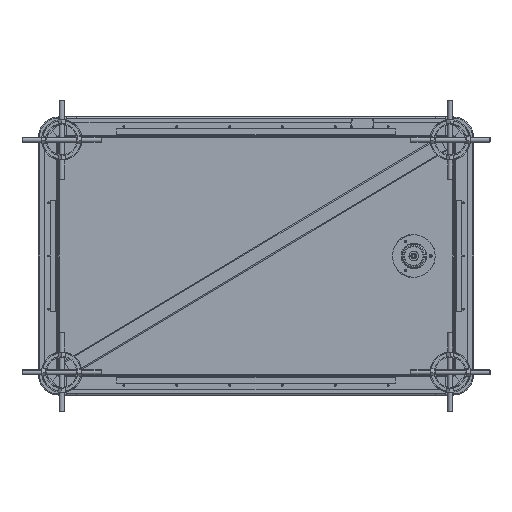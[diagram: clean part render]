
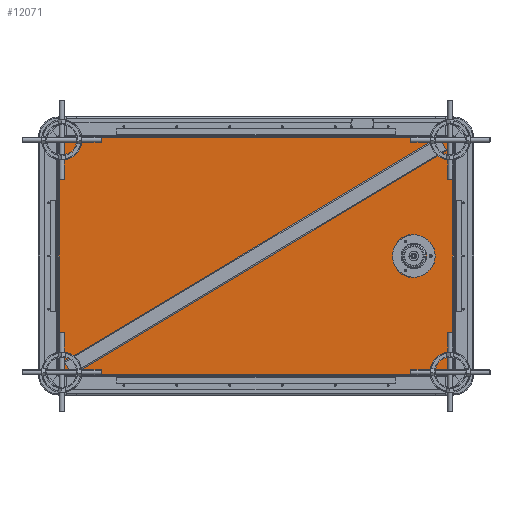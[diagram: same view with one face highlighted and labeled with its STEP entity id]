
A CAD part, front view. The second image highlights one B-rep face of the part: STEP entity #12071.
In plain terms, the highlighted planar face has unit normal (-0.018, -1, 0).
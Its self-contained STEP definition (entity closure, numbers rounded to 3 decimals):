
#70 = CARTESIAN_POINT ( 'NONE',  ( 373.748, -70.243, 36.806 ) ) ;
#441 = VERTEX_POINT ( 'NONE', #44670 ) ;
#771 = AXIS2_PLACEMENT_3D ( 'NONE', #16223, #36047, #27571 ) ;
#1063 = CARTESIAN_POINT ( 'NONE',  ( 373.748, -70.243, -36.806 ) ) ;
#2255 = CIRCLE ( 'NONE', #23294, 2.45 ) ;
#2343 = CARTESIAN_POINT ( 'NONE',  ( 376.198, -70.285, -36.806 ) ) ;
#2465 = AXIS2_PLACEMENT_3D ( 'NONE', #28470, #47895, #36260 ) ;
#2573 = ORIENTED_EDGE ( 'NONE', *, *, #23126, .F. ) ;
#3183 = ORIENTED_EDGE ( 'NONE', *, *, #18973, .T. ) ;
#4253 = FACE_BOUND ( 'NONE', #49211, .T. ) ;
#4737 = ORIENTED_EDGE ( 'NONE', *, *, #31815, .T. ) ;
#5606 = EDGE_LOOP ( 'NONE', ( #24836, #29629, #2573, #3183 ) ) ;
#5864 = EDGE_LOOP ( 'NONE', ( #12829, #34138 ) ) ;
#5886 = VERTEX_POINT ( 'NONE', #13179 ) ;
#5948 = CIRCLE ( 'NONE', #2465, 2.45 ) ;
#7405 = EDGE_CURVE ( 'NONE', #48457, #5886, #10723, .T. ) ;
#7808 = EDGE_CURVE ( 'NONE', #42266, #441, #37735, .T. ) ;
#8124 = CARTESIAN_POINT ( 'NONE',  ( 437.489, -71.355, 0. ) ) ;
#8426 = EDGE_CURVE ( 'NONE', #441, #42266, #17916, .T. ) ;
#8612 = EDGE_CURVE ( 'NONE', #25677, #28077, #40652, .T. ) ;
#8764 = DIRECTION ( 'NONE',  ( -1., 0.017, 0. ) ) ;
#8974 = AXIS2_PLACEMENT_3D ( 'NONE', #13400, #40896, #17328 ) ;
#9092 = CARTESIAN_POINT ( 'NONE',  ( -495.57, -55.069, -298. ) ) ;
#9212 = DIRECTION ( 'NONE',  ( 1., -0.017, 0. ) ) ;
#9239 = ORIENTED_EDGE ( 'NONE', *, *, #25631, .T. ) ;
#10271 = EDGE_LOOP ( 'NONE', ( #43712, #50866 ) ) ;
#10602 = VERTEX_POINT ( 'NONE', #40821 ) ;
#10610 = CIRCLE ( 'NONE', #48371, 30.25 ) ;
#10723 = CIRCLE ( 'NONE', #771, 30.25 ) ;
#10847 = DIRECTION ( 'NONE',  ( 0.017, 1., 0. ) ) ;
#11446 = CARTESIAN_POINT ( 'NONE',  ( 495.43, -72.367, 298. ) ) ;
#12071 = ADVANCED_FACE ( 'NONE', ( #25098, #33709, #14614, #4253, #44809 ), #20926, .F. ) ;
#12448 = EDGE_CURVE ( 'NONE', #44411, #25864, #5948, .T. ) ;
#12703 = ORIENTED_EDGE ( 'NONE', *, *, #7405, .T. ) ;
#12829 = ORIENTED_EDGE ( 'NONE', *, *, #12448, .T. ) ;
#13179 = CARTESIAN_POINT ( 'NONE',  ( 367.199, -70.128, 0. ) ) ;
#13400 = CARTESIAN_POINT ( 'NONE',  ( 499.5, -72.438, 298. ) ) ;
#14411 = DIRECTION ( 'NONE',  ( 0.017, 1., 0. ) ) ;
#14479 = VERTEX_POINT ( 'NONE', #41893 ) ;
#14614 = FACE_BOUND ( 'NONE', #10271, .T. ) ;
#14797 = DIRECTION ( 'NONE',  ( -1., 0.017, 0. ) ) ;
#14866 = LINE ( 'NONE', #11446, #44469 ) ;
#15128 = DIRECTION ( 'NONE',  ( -1., 0.017, 0. ) ) ;
#15289 = EDGE_LOOP ( 'NONE', ( #46139, #9239 ) ) ;
#15644 = CARTESIAN_POINT ( 'NONE',  ( 439.938, -71.398, 0. ) ) ;
#15892 = DIRECTION ( 'NONE',  ( 0., 0., -1. ) ) ;
#16185 = CARTESIAN_POINT ( 'NONE',  ( 378.648, -70.328, -36.806 ) ) ;
#16223 = CARTESIAN_POINT ( 'NONE',  ( 397.445, -70.656, 0. ) ) ;
#16561 = CARTESIAN_POINT ( 'NONE',  ( 499.5, -72.438, -298. ) ) ;
#17328 = DIRECTION ( 'NONE',  ( -1., 0.017, 0. ) ) ;
#17916 = CIRCLE ( 'NONE', #40293, 2.45 ) ;
#18552 = LINE ( 'NONE', #46092, #42629 ) ;
#18973 = EDGE_CURVE ( 'NONE', #14479, #25677, #18552, .T. ) ;
#19603 = CIRCLE ( 'NONE', #39079, 2.45 ) ;
#20210 = CARTESIAN_POINT ( 'NONE',  ( 439.938, -71.398, 0. ) ) ;
#20926 = PLANE ( 'NONE',  #8974 ) ;
#20944 = EDGE_CURVE ( 'NONE', #28498, #29412, #31937, .T. ) ;
#22743 = CARTESIAN_POINT ( 'NONE',  ( 427.69, -71.184, 0. ) ) ;
#23126 = EDGE_CURVE ( 'NONE', #14479, #10602, #46343, .T. ) ;
#23272 = CARTESIAN_POINT ( 'NONE',  ( 378.648, -70.328, 36.806 ) ) ;
#23294 = AXIS2_PLACEMENT_3D ( 'NONE', #50411, #10847, #14797 ) ;
#24836 = ORIENTED_EDGE ( 'NONE', *, *, #8612, .T. ) ;
#25098 = FACE_BOUND ( 'NONE', #5864, .T. ) ;
#25631 = EDGE_CURVE ( 'NONE', #29412, #28498, #19603, .T. ) ;
#25677 = VERTEX_POINT ( 'NONE', #9092 ) ;
#25864 = VERTEX_POINT ( 'NONE', #23272 ) ;
#26732 = CARTESIAN_POINT ( 'NONE',  ( 397.445, -70.656, 0. ) ) ;
#27571 = DIRECTION ( 'NONE',  ( -1., 0.017, 0. ) ) ;
#28077 = VERTEX_POINT ( 'NONE', #45347 ) ;
#28470 = CARTESIAN_POINT ( 'NONE',  ( 376.198, -70.285, 36.806 ) ) ;
#28498 = VERTEX_POINT ( 'NONE', #1063 ) ;
#29412 = VERTEX_POINT ( 'NONE', #16185 ) ;
#29629 = ORIENTED_EDGE ( 'NONE', *, *, #46023, .F. ) ;
#29656 = CARTESIAN_POINT ( 'NONE',  ( 376.198, -70.285, -36.806 ) ) ;
#31815 = EDGE_CURVE ( 'NONE', #5886, #48457, #10610, .T. ) ;
#31937 = CIRCLE ( 'NONE', #38764, 2.45 ) ;
#32140 = DIRECTION ( 'NONE',  ( 0.017, 1., 0. ) ) ;
#33480 = DIRECTION ( 'NONE',  ( -1., 0.017, 0. ) ) ;
#33709 = FACE_BOUND ( 'NONE', #15289, .T. ) ;
#34138 = ORIENTED_EDGE ( 'NONE', *, *, #37178, .T. ) ;
#35006 = DIRECTION ( 'NONE',  ( -1., 0.017, 0. ) ) ;
#36047 = DIRECTION ( 'NONE',  ( 0.017, 1., 0. ) ) ;
#36260 = DIRECTION ( 'NONE',  ( -1., 0.017, 0. ) ) ;
#36926 = DIRECTION ( 'NONE',  ( 0.017, 1., 0. ) ) ;
#37178 = EDGE_CURVE ( 'NONE', #25864, #44411, #2255, .T. ) ;
#37728 = CARTESIAN_POINT ( 'NONE',  ( 499.5, -72.438, 298. ) ) ;
#37735 = CIRCLE ( 'NONE', #46793, 2.45 ) ;
#38764 = AXIS2_PLACEMENT_3D ( 'NONE', #2343, #14411, #41270 ) ;
#39079 = AXIS2_PLACEMENT_3D ( 'NONE', #29656, #36926, #33480 ) ;
#40293 = AXIS2_PLACEMENT_3D ( 'NONE', #20210, #32140, #8764 ) ;
#40652 = LINE ( 'NONE', #16561, #48051 ) ;
#40821 = CARTESIAN_POINT ( 'NONE',  ( 495.43, -72.367, 298. ) ) ;
#40896 = DIRECTION ( 'NONE',  ( 0.017, 1., 0. ) ) ;
#41270 = DIRECTION ( 'NONE',  ( -1., 0.017, 0. ) ) ;
#41338 = DIRECTION ( 'NONE',  ( 1., -0.017, 0. ) ) ;
#41893 = CARTESIAN_POINT ( 'NONE',  ( -495.57, -55.069, 298. ) ) ;
#42266 = VERTEX_POINT ( 'NONE', #8124 ) ;
#42494 = DIRECTION ( 'NONE',  ( 0., 0., -1. ) ) ;
#42629 = VECTOR ( 'NONE', #42494, 1000. ) ;
#43019 = DIRECTION ( 'NONE',  ( 0.017, 1., 0. ) ) ;
#43712 = ORIENTED_EDGE ( 'NONE', *, *, #7808, .T. ) ;
#44411 = VERTEX_POINT ( 'NONE', #70 ) ;
#44469 = VECTOR ( 'NONE', #15892, 1000. ) ;
#44670 = CARTESIAN_POINT ( 'NONE',  ( 442.388, -71.441, 0. ) ) ;
#44809 = FACE_OUTER_BOUND ( 'NONE', #5606, .T. ) ;
#45347 = CARTESIAN_POINT ( 'NONE',  ( 495.43, -72.367, -298. ) ) ;
#46023 = EDGE_CURVE ( 'NONE', #10602, #28077, #14866, .T. ) ;
#46092 = CARTESIAN_POINT ( 'NONE',  ( -495.57, -55.069, 298. ) ) ;
#46139 = ORIENTED_EDGE ( 'NONE', *, *, #20944, .T. ) ;
#46343 = LINE ( 'NONE', #37728, #48839 ) ;
#46793 = AXIS2_PLACEMENT_3D ( 'NONE', #15644, #43019, #15128 ) ;
#47895 = DIRECTION ( 'NONE',  ( 0.017, 1., 0. ) ) ;
#48051 = VECTOR ( 'NONE', #9212, 1000. ) ;
#48371 = AXIS2_PLACEMENT_3D ( 'NONE', #26732, #50638, #35006 ) ;
#48457 = VERTEX_POINT ( 'NONE', #22743 ) ;
#48839 = VECTOR ( 'NONE', #41338, 1000. ) ;
#49211 = EDGE_LOOP ( 'NONE', ( #4737, #12703 ) ) ;
#50411 = CARTESIAN_POINT ( 'NONE',  ( 376.198, -70.285, 36.806 ) ) ;
#50638 = DIRECTION ( 'NONE',  ( 0.017, 1., 0. ) ) ;
#50866 = ORIENTED_EDGE ( 'NONE', *, *, #8426, .T. ) ;
